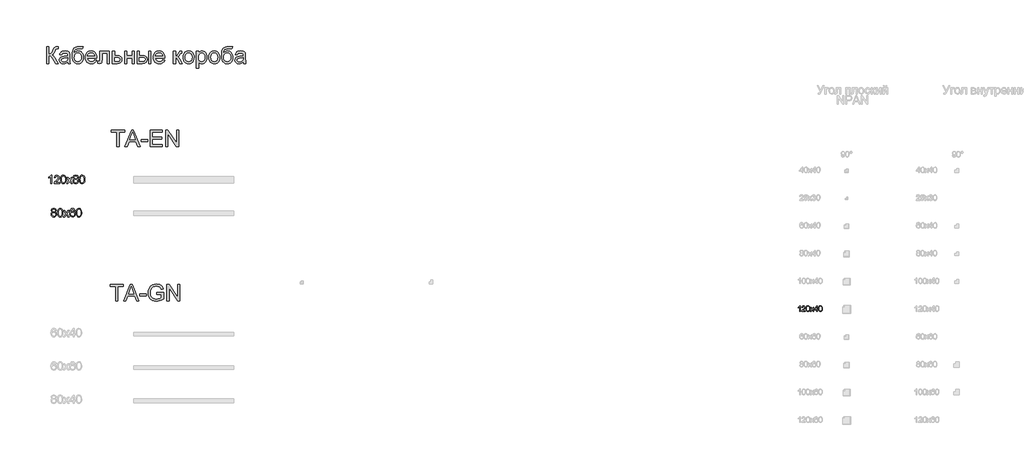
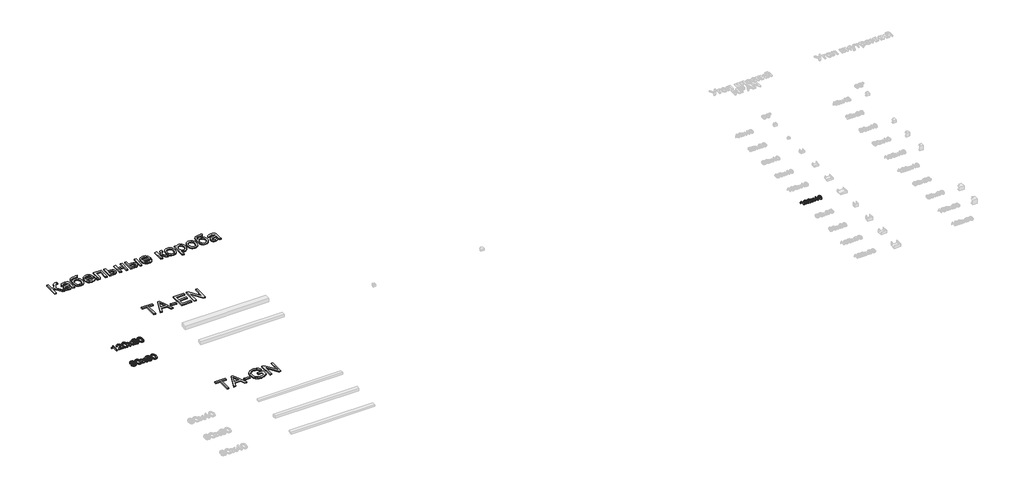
# One storey, part 19 of 28: 6 proxies.
"""IFC4 building model written with IfcOpenShell, lengths in millimetres."""

import ifcopenshell
import ifcopenshell.guid

model = None  # the IFC model being written
_history = None  # IfcOwnerHistory: only IFC2X3 demands one
_inside = {}  # id of a spatial element -> (the spatial element, [elements in it])
_under = {}  # id of a project, library or spatial element -> (it, [spatial elements below it])
_declared = {}  # id of a project -> (the project, [libraries it declares])
_typed = {}  # id of a type object -> (the type object, [elements of that type])
_made_of = {}  # id of a material, layer set ... -> (it, [elements and type objects made of it])


def new_model(schema):
    """Start an empty IFC model of exactly this schema.

    Asked for "IFC4X3", IfcOpenShell would pick the latest addendum, in which some entities
    have other attributes; the version numbers below select the first issue.
    IFC2X3 requires an IfcOwnerHistory on every rooted entity: one is made here for all.
    """
    global model, _history
    if schema == "IFC4X3":
        model = ifcopenshell.file(schema_version=(4, 3, 0, 0))
    else:
        model = ifcopenshell.file(schema=schema)
    _inside.clear()
    _under.clear()
    _declared.clear()
    _typed.clear()
    _made_of.clear()
    _history = None
    if model.schema == "IFC2X3":
        org = make("IfcOrganization", Name="unknown")
        user = make(
            "IfcPersonAndOrganization",
            ThePerson=make("IfcPerson", FamilyName="unknown"),
            TheOrganization=org,
        )
        app = make(
            "IfcApplication",
            ApplicationDeveloper=org,
            Version="unknown",
            ApplicationFullName="unknown",
            ApplicationIdentifier="unknown",
        )
        _history = make(
            "IfcOwnerHistory",
            OwningUser=user,
            OwningApplication=app,
            ChangeAction="ADDED",
            CreationDate=0,
        )
    return model


def make(cls, **values):
    """One entity of the class cls with the attributes given. An attribute that is None is left unset."""
    return model.create_entity(
        cls, **{name: value for name, value in values.items() if value is not None}
    )


def rooted(cls, **values):
    """An entity with a GlobalId (a new one), such as an element, a storey or a relation."""
    return make(cls, GlobalId=ifcopenshell.guid.new(), OwnerHistory=_history, **values)


def si_unit(unit_type, name, prefix=None):
    """IfcSIUnit, for example si_unit("LENGTHUNIT", "METRE", prefix="MILLI")."""
    return make("IfcSIUnit", UnitType=unit_type, Prefix=prefix, Name=name)


def assignment(units):
    """IfcUnitAssignment: the units of a project."""
    return None if units is None else make("IfcUnitAssignment", Units=units)


def point(xyz):
    """IfcCartesianPoint."""
    return None if xyz is None else make("IfcCartesianPoint", Coordinates=xyz)


def direction(xyz):
    """IfcDirection."""
    return None if xyz is None else make("IfcDirection", DirectionRatios=xyz)


def frame(location, z_axis=None, x_axis=None):
    """IfcAxis2Placement3D, a coordinate frame: its origin and axes. An axis left out is left unset."""
    return make(
        "IfcAxis2Placement3D",
        Location=point(location),
        Axis=direction(z_axis),
        RefDirection=direction(x_axis),
    )


def origin():
    """The frame at (0, 0, 0) with its axes left unset."""
    return frame((0.0, 0.0, 0.0))


def origin_with_axes():
    """The frame at (0, 0, 0) with the z axis (0, 0, 1) and the x axis (1, 0, 0) written out."""
    return frame((0.0, 0.0, 0.0), z_axis=(0.0, 0.0, 1.0), x_axis=(1.0, 0.0, 0.0))


def place(relative_to, where):
    """IfcLocalPlacement: puts the frame where relative to a parent placement (None: the world)."""
    return make(
        "IfcLocalPlacement", PlacementRelTo=relative_to, RelativePlacement=where
    )


def context(
    kind, dimensions, precision=None, world=None, true_north=None, identifier=None
):
    """IfcGeometricRepresentationContext, for example the 3D "Model" context."""
    return make(
        "IfcGeometricRepresentationContext",
        ContextIdentifier=identifier,
        ContextType=kind,
        CoordinateSpaceDimension=dimensions,
        Precision=precision,
        WorldCoordinateSystem=world,
        TrueNorth=true_north,
    )


def project(units=None, contexts=None):
    """IfcProject with its units and contexts."""
    return rooted(
        "IfcProject",
        Name="project",
        RepresentationContexts=contexts,
        UnitsInContext=assignment(units),
    )


def spatial(cls, under=None, at=None, **own):
    """A site, building, storey or space (cls), placed at a placement, below another one or the project."""
    s = rooted(cls, ObjectPlacement=at, **own)
    if under is not None:
        _under.setdefault(under.id(), (under, []))[1].append(s)
    return s


def polyline(points):
    """IfcPolyline through the points."""
    return make("IfcPolyline", Points=[point(p) for p in points])


def outline(outer, holes=None, kind="AREA"):
    """IfcArbitraryClosedProfileDef: a profile drawn as a closed curve; with holes, ...WithVoids."""
    if holes is None:
        return make("IfcArbitraryClosedProfileDef", ProfileType=kind, OuterCurve=outer)
    return make(
        "IfcArbitraryProfileDefWithVoids",
        ProfileType=kind,
        OuterCurve=outer,
        InnerCurves=holes,
    )


def extrude(swept, where, along, depth):
    """IfcExtrudedAreaSolid: the profile swept, set in the frame where, extruded along a direction by depth."""
    return make(
        "IfcExtrudedAreaSolid",
        SweptArea=swept,
        Position=where,
        ExtrudedDirection=direction(along),
        Depth=depth,
    )


def shape(context_of_items, identifier, shape_type, items):
    """IfcShapeRepresentation: the items that make up one representation, for example the "Body"."""
    return make(
        "IfcShapeRepresentation",
        ContextOfItems=context_of_items,
        RepresentationIdentifier=identifier,
        RepresentationType=shape_type,
        Items=items,
    )


def made_of(thing, what):
    """Note that an element or type object is made of a material, layer set ...; save() writes the relation."""
    if what is not None:
        _made_of.setdefault(what.id(), (what, []))[1].append(thing)
    return thing


def element(
    cls,
    number,
    at=None,
    inside=None,
    cuts=None,
    type_object=None,
    material=None,
    context=None,
    identifier="Body",
    shape_type=None,
    held_by="IfcProductDefinitionShape",
    body=None,
    shapes=None,
    **own,
):
    """One element of the class cls, such as IfcWall. Its Tag is "e" and its number.

    at: its placement. inside: the storey or other place that contains it. cuts: it is an
    opening in that element (IfcRelVoidsElement). A single representation is given by context,
    identifier, shape_type and body (its items); several are given by shapes. held_by: the class
    of the entity that holds the representations. save() writes the other relations.
    """
    e = rooted(cls, Tag="e%d" % number, ObjectPlacement=at, **own)
    if body is not None:
        shapes = [shape(context, identifier, shape_type, body)]
    if shapes is not None:
        e.Representation = make(held_by, Representations=shapes)
    if inside is not None:
        _inside.setdefault(inside.id(), (inside, []))[1].append(e)
    if cuts is not None:
        rooted(
            "IfcRelVoidsElement", RelatingBuildingElement=cuts, RelatedOpeningElement=e
        )
    if type_object is not None:
        _typed.setdefault(type_object.id(), (type_object, []))[1].append(e)
    return made_of(e, material)


def aggregate(whole, parts):
    """IfcRelAggregates: a whole, such as a stair, and the parts it consists of."""
    return rooted("IfcRelAggregates", RelatingObject=whole, RelatedObjects=parts)


def save(model, path):
    """Write the relations noted so far, then the file.

    IfcRelAggregates (storeys below a building ...), IfcRelContainedInSpatialStructure (elements
    in a storey), IfcRelDefinesByType, IfcRelAssociatesMaterial and IfcRelDeclares: one each for
    every whole, place, type object, material and project.
    """
    for whole, parts in _under.values():
        aggregate(whole, parts)
    for where, things in _inside.values():
        rooted(
            "IfcRelContainedInSpatialStructure",
            RelatedElements=things,
            RelatingStructure=where,
        )
    for kind, things in _typed.values():
        rooted("IfcRelDefinesByType", RelatedObjects=things, RelatingType=kind)
    for what, things in _made_of.values():
        rooted("IfcRelAssociatesMaterial", RelatedObjects=things, RelatingMaterial=what)
    for by, libraries in _declared.values():
        rooted("IfcRelDeclares", RelatingContext=by, RelatedDefinitions=libraries)
    model.write(path)


model = new_model("IFC4")

# Units and contexts
model_context = context("Model", 3, world=origin())
ifc_project = project(units=[si_unit("LENGTHUNIT", "METRE", prefix="MILLI")], contexts=[model_context])

# Site, building, storey
site = spatial("IfcSite", under=ifc_project)
building = spatial("IfcBuilding", under=site)
storey = spatial("IfcBuildingStorey", under=building, Name="Этаж 01", Elevation=0.0)

# Proxies
placement = place(None, origin())
element("IfcBuildingElementProxy", 1, Name="300 мм Arial", ObjectType="300 мм Arial", at=placement, inside=storey, context=model_context, shape_type="SweptSolid", body=[
    extrude(outline(polyline([(-596.1252224, 5303.8877407), (-558.4541061, 5303.8877407), (-558.4541061, 5172.0388337), (-532.9506867, 5174.5312342), (-516.3316176, 5182.0084357), (-502.8947277, 5199.6023922), (-486.9378462, 5232.4450573), (-466.1525135, 5274.5675457), (-456.1277291, 5285.9810846), (-442.6080658, 5295.4264549), (-426.5592137, 5301.7724193), (-408.9468632, 5303.8877407), (-384.2251931, 5303.4462824), (-384.2251931, 5265.775166), (-392.5393262, 5265.9958952), (-400.8534593, 5266.2166244), (-418.1071249, 5263.9541502), (-430.2840189, 5257.1667274), (-440.7686558, 5242.9113), (-452.6512442, 5218.3919651), (-467.2285683, 5187.8577595), (-479.3226889, 5171.1559169), (-505.331946, 5155.5577203), (-490.7408263, 5149.3497116), (-476.2508742, 5138.5247839), (-447.5744727, 5103.0241714), (-384.2251931, 5002.5188103), (-427.9295742, 5002.5188103), (-481.4931927, 5087.4259748), (-502.1773578, 5114.6584395), (-519.2010972, 5131.7557552), (-536.6111126, 5140.7780611), (-558.4541061, 5143.7854964), (-558.4541061, 5002.5188103), (-596.1252224, 5002.5188103), (-596.1252224, 5303.8877407)])), origin_with_axes(), (0.0, 0.0, 1.0), 20.0),
    extrude(outline(polyline([(-214.7051698, 5030.7721475), (-232.7037964, 5015.3394978), (-251.2358519, 5005.2411371), (-270.7244006, 4999.6677248), (-291.5925068, 4997.8099208), (-323.0740085, 5002.279687), (-346.2965594, 5015.6889857), (-360.6163661, 5036.0512542), (-365.389635, 5061.3799295), (-363.5870132, 5076.9965202), (-358.1791479, 5091.1783711), (-349.8374236, 5103.318477), (-339.2332251, 5112.8098325), (-312.8560861, 5125.1706675), (-280.2617413, 5130.8360502), (-241.7444964, 5136.7957385), (-214.925899, 5143.7854964), (-214.7051698, 5152.1732059), (-217.2987378, 5168.9854131), (-225.079442, 5179.9850848), (-242.4802604, 5188.1520651), (-266.7236839, 5190.8743918), (-289.1644856, 5189.062573), (-304.8362586, 5183.6271165), (-315.5232305, 5173.574741), (-323.0096291, 5157.9121651), (-360.6807455, 5162.6210546), (-354.141643, 5183.2224463), (-344.3835731, 5199.4092541), (-330.4960277, 5211.7884833), (-311.5684991, 5220.967139), (-288.4195245, 5226.6509159), (-261.8676415, 5228.5455081), (-236.4010104, 5226.8716451), (-216.2134859, 5221.8500558), (-200.9923684, 5214.2992779), (-190.4249581, 5205.0378486), (-183.4168061, 5193.5875215), (-178.8734634, 5179.47005), (-177.0340535, 5146.5078232), (-177.0340535, 5099.639657), (-175.1210671, 5034.1934501), (-167.6162744, 5002.5188103), (-205.2873907, 5002.5188103), (-214.7051698, 5030.7721475)]), holes=[polyline([(-214.7051698, 5106.1143801), (-275.4792754, 5094.5628855), (-307.8896791, 5088.4560444), (-322.5681708, 5078.5232305), (-327.7185187, 5064.0286799), (-324.9134185, 5052.8266731), (-316.4981178, 5043.6480174), (-302.6565578, 5037.5227821), (-283.5726793, 5035.4810371), (-263.3391695, 5037.7343143), (-245.4601046, 5044.4941459), (-230.965554, 5054.454551), (-220.8855873, 5066.3095483), (-216.415821, 5078.5232305), (-214.925899, 5095.4458023), (-214.7051698, 5106.1143801)])]), origin_with_axes(), (0.0, 0.0, 1.0), 20.0),
    extrude(outline(polyline([(30.1570862, 5308.5966303), (63.119313, 5308.5966303), (59.5508576, 5290.6899742), (53.4072283, 5279.2028589), (44.8907601, 5272.406239), (34.2037882, 5268.5710692), (-11.928614, 5266.2166244), (-50.2343268, 5264.0461207), (-74.063883, 5257.5346094), (-88.3193103, 5246.2406321), (-97.9026363, 5229.7227305), (-103.5404279, 5207.8521459), (-105.959252, 5180.5001196), (-90.8117108, 5201.5429697), (-73.328119, 5216.5525551), (-53.4900824, 5225.5472699), (-31.279207, 5228.5455081), (-10.7559902, 5226.6394195), (7.9186196, 5220.9211538), (24.7446224, 5211.3907108), (39.7220181, 5198.0480907), (52.0184738, 5181.4543135), (60.8016564, 5162.1703992), (66.071566, 5140.1963477), (67.8282025, 5115.5321592), (64.3425206, 5079.5716942), (53.8854749, 5050.7113517), (38.6459633, 5028.279747), (20.8128835, 5011.6054956), (-1.775071, 5001.2588145), (-31.279207, 4997.8099208), (-65.2807004, 5002.2520959), (-90.7657256, 5015.5786211), (-109.5185103, 5035.830525), (-123.3232822, 5061.0488357), (-131.8213563, 5099.0234547), (-134.6540476, 5157.5442831), (-132.8675207, 5197.2088599), (-127.5079399, 5229.8238981), (-118.5753052, 5255.3893975), (-106.0696166, 5273.9053581), (-89.8575169, 5287.0226505), (-69.8056489, 5296.3921451), (-45.9140126, 5302.0138418), (-18.1826079, 5303.8877407), (23.7559395, 5304.7338693), (30.1570862, 5308.5966303)]), holes=[polyline([(30.1570862, 5116.7093816), (26.0735961, 5146.3514734), (13.8231256, 5170.0890591), (-5.8585611, 5185.6780586), (-32.2357002, 5190.8743918), (-59.7348793, 5185.383753), (-70.8219229, 5178.5204546), (-80.1339359, 5168.9118367), (-92.7706825, 5143.2612646), (-96.9829313, 5110.2346585), (-92.3292241, 5078.2197279), (-78.3681024, 5054.7212654), (-57.5827696, 5040.2910942), (-32.4564294, 5035.4810371), (-7.2013304, 5041.0452522), (12.7930561, 5057.7378978), (25.8160787, 5083.6091991), (30.1570862, 5116.7093816)])]), origin_with_axes(), (0.0, 0.0, 1.0), 20.0),
    extrude(outline(polyline([(269.8689943, 5068.4432638), (306.8043466, 5063.7343743), (293.4962154, 5035.9041014), (272.2602273, 5015.1003745), (243.5746287, 5002.1325342), (207.9176663, 4997.8099208), (184.543364, 4999.6746226), (163.7166446, 5005.2687282), (145.4375079, 5014.5922375), (129.7059541, 5027.6451506), (117.055412, 5044.0641839), (108.0193105, 5063.4860539), (102.5976496, 5085.9107608), (100.7904293, 5111.3383045), (102.6160437, 5137.6280716), (108.0928869, 5160.8000387), (117.2209589, 5180.854206), (130.0002597, 5197.7905733), (145.6904268, 5211.2458573), (163.5510977, 5220.8567744), (183.5822723, 5226.6233247), (205.7839507, 5228.5455081), (227.2705585, 5226.6279232), (246.7016256, 5220.8751685), (264.0771521, 5211.287244), (279.397138, 5197.8641497), (291.9028265, 5180.9645706), (300.8354612, 5160.9471915), (306.195042, 5137.8120125), (307.981569, 5111.5590337), (307.7608398, 5101.4054906), (138.4615456, 5101.4054906), (144.982254, 5073.2073357), (160.1297951, 5052.4771852), (181.9911827, 5039.7300741), (208.6534303, 5035.4810371), (228.702999, 5037.4492057), (245.5887826, 5043.3537118), (259.310781, 5053.5624371), (269.8689943, 5068.4432638)]), holes=[polyline([(138.4615456, 5139.0766069), (270.3104527, 5139.0766069), (265.215287, 5158.9790228), (255.2272909, 5173.2160561), (233.2647358, 5186.4598079), (205.6367979, 5190.8743918), (180.2437432, 5187.3519217), (159.2468783, 5176.7845114), (144.6511602, 5160.3125951), (138.4615456, 5139.0766069)])]), origin_with_axes(), (0.0, 0.0, 1.0), 20.0),
    extrude(outline(polyline([(364.4882434, 5223.8366186), (534.0082668, 5223.8366186), (534.0082668, 5002.7395395), (496.3371505, 5002.7395395), (496.3371505, 5186.1655023), (402.1593597, 5186.1655023), (402.1593597, 5080.5833697), (399.620974, 5031.8757935), (394.8660992, 5020.8485307), (385.6782464, 5011.31119), (371.7355187, 5004.7169052), (352.7160196, 5002.5188103), (322.1082376, 5004.4317967), (322.1082376, 5040.1899266), (338.957233, 5040.1899266), (355.9901694, 5042.5075832), (362.7959863, 5049.8652231), (364.4882434, 5082.7170852), (364.4882434, 5223.8366186)])), origin_with_axes(), (0.0, 0.0, 1.0), 20.0),
    extrude(outline(polyline([(590.5149413, 5223.8366186), (628.1860576, 5223.8366186), (628.1860576, 5143.7854964), (671.596133, 5143.7854964), (709.2304611, 5139.0674099), (724.3780023, 5133.1698016), (737.0791282, 5124.9131501), (747.1223066, 5114.5825638), (754.2960055, 5102.4631513), (760.0349647, 5072.8578478), (755.1513312, 5045.9012946), (740.5004307, 5023.1569902), (729.2685335, 5014.1277865), (715.107376, 5007.6783553), (677.9972797, 5002.5188103), (590.5149413, 5002.5188103), (590.5149413, 5223.8366186)]), holes=[polyline([(628.1860576, 5040.1899266), (663.3555763, 5040.1899266), (690.6432233, 5042.1672923), (708.7890027, 5048.0993895), (718.9701369, 5058.2253414), (722.3638483, 5072.7842714), (719.8530537, 5085.0899241), (712.3206699, 5095.9608371), (696.1798473, 5103.5759944), (667.8437367, 5106.1143801), (628.1860576, 5106.1143801), (628.1860576, 5040.1899266)])]), origin_with_axes(), (0.0, 0.0, 1.0), 20.0),
    extrude(outline(polyline([(807.12386, 5223.8366186), (844.7949763, 5223.8366186), (844.7949763, 5139.0766069), (943.6816566, 5139.0766069), (943.6816566, 5223.8366186), (981.352773, 5223.8366186), (981.352773, 5002.5188103), (943.6816566, 5002.5188103), (943.6816566, 5101.4054906), (844.7949763, 5101.4054906), (844.7949763, 5002.5188103), (807.12386, 5002.5188103), (807.12386, 5223.8366186)])), origin_with_axes(), (0.0, 0.0, 1.0), 20.0),
    extrude(outline(polyline([(1245.0505871, 5223.8366186), (1282.7217034, 5223.8366186), (1282.7217034, 5002.5188103), (1245.0505871, 5002.5188103), (1245.0505871, 5223.8366186)])), origin_with_axes(), (0.0, 0.0, 1.0), 20.0),
    extrude(outline(polyline([(1037.8594474, 5223.8366186), (1075.5305637, 5223.8366186), (1075.5305637, 5143.7854964), (1122.1044243, 5143.7854964), (1162.3599116, 5139.0674099), (1178.5766098, 5133.1698016), (1192.1859444, 5124.9131501), (1202.9533905, 5114.5825638), (1210.6444235, 5102.4631513), (1215.2590433, 5088.5549127), (1216.7972499, 5072.8578478), (1211.6377049, 5045.9012946), (1196.1590699, 5023.1569902), (1184.2971749, 5014.1277865), (1169.3496695, 5007.6783553), (1130.1978282, 5002.5188103), (1037.8594474, 5002.5188103), (1037.8594474, 5223.8366186)]), holes=[polyline([(1075.5305637, 5040.1899266), (1114.2317496, 5040.1899266), (1144.2325263, 5042.1672923), (1164.1901246, 5048.0993895), (1175.3921313, 5058.2253414), (1179.1261336, 5072.7842714), (1176.3578215, 5085.0899241), (1168.0528855, 5095.9608371), (1150.2933822, 5103.5759944), (1119.1613683, 5106.1143801), (1075.5305637, 5106.1143801), (1075.5305637, 5040.1899266)])]), origin_with_axes(), (0.0, 0.0, 1.0), 20.0),
    extrude(outline(polyline([(1494.1802742, 5068.4432638), (1531.1156265, 5063.7343743), (1517.8074954, 5035.9041014), (1496.5715072, 5015.1003745), (1467.8859086, 5002.1325342), (1432.2289462, 4997.8099208), (1408.854644, 4999.6746226), (1388.0279245, 5005.2687282), (1369.7487879, 5014.5922375), (1354.0172341, 5027.6451506), (1341.366692, 5044.0641839), (1332.3305905, 5063.4860539), (1326.9089295, 5085.9107608), (1325.1017092, 5111.3383045), (1326.9273236, 5137.6280716), (1332.4041669, 5160.8000387), (1341.5322389, 5180.854206), (1354.3115397, 5197.7905733), (1370.0017068, 5211.2458573), (1387.8623776, 5220.8567744), (1407.8935523, 5226.6233247), (1430.0952307, 5228.5455081), (1451.5818385, 5226.6279232), (1471.0129056, 5220.8751685), (1488.3884321, 5211.287244), (1503.7084179, 5197.8641497), (1516.2141065, 5180.9645706), (1525.1467412, 5160.9471915), (1530.506322, 5137.8120125), (1532.2928489, 5111.5590337), (1532.0721197, 5101.4054906), (1362.7728256, 5101.4054906), (1369.2935339, 5073.2073357), (1384.4410751, 5052.4771852), (1406.3024626, 5039.7300741), (1432.9647102, 5035.4810371), (1453.014279, 5037.4492057), (1469.9000625, 5043.3537118), (1483.622061, 5053.5624371), (1494.1802742, 5068.4432638)]), holes=[polyline([(1362.7728256, 5139.0766069), (1494.6217326, 5139.0766069), (1489.526567, 5158.9790228), (1479.5385708, 5173.2160561), (1457.5760157, 5186.4598079), (1429.9480779, 5190.8743918), (1404.5550232, 5187.3519217), (1383.5581583, 5176.7845114), (1368.9624401, 5160.3125951), (1362.7728256, 5139.0766069)])]), origin_with_axes(), (0.0, 0.0, 1.0), 20.0),
    extrude(outline(polyline([(1687.6862037, 5223.8366186), (1725.35732, 5223.8366186), (1725.35732, 5129.6588278), (1740.6796051, 5131.351085), (1750.5940249, 5136.4278565), (1759.3680105, 5149.6716084), (1771.268993, 5175.8648064), (1788.4490822, 5209.893891), (1803.6058204, 5220.967139), (1831.1601818, 5223.8366186), (1838.3706689, 5223.8366186), (1838.3706689, 5185.9447731), (1828.2171259, 5186.1655023), (1809.8230261, 5182.1923767), (1796.8735799, 5157.3971303), (1781.6800535, 5130.5785328), (1760.3796859, 5117.4451456), (1772.3174567, 5112.1430463), (1784.1448628, 5102.7850481), (1807.4685813, 5071.9013546), (1847.788448, 5002.5188103), (1804.9669838, 5002.5188103), (1765.4564575, 5070.4298266), (1745.5908297, 5099.1614104), (1736.3018094, 5104.3761377), (1725.35732, 5106.1143801), (1725.35732, 5002.5188103), (1687.6862037, 5002.5188103), (1687.6862037, 5223.8366186)])), origin_with_axes(), (0.0, 0.0, 1.0), 20.0),
    extrude(outline(polyline([(1861.9151166, 5113.1777144), (1863.9522632, 5141.8403204), (1870.0637028, 5166.5389978), (1880.2494355, 5187.2737468), (1894.5094614, 5204.0445673), (1908.8660562, 5214.7637289), (1924.7125732, 5222.4202729), (1942.0490122, 5227.0141993), (1960.8753733, 5228.5455081), (1981.6584068, 5226.6808063), (2000.4502789, 5221.0867007), (2017.2509898, 5211.7631914), (2032.0605394, 5198.7102783), (2044.1477622, 5182.36942), (2052.7814928, 5163.1820746), (2057.9617311, 5141.1482424), (2059.6884772, 5116.2679232), (2056.6350567, 5078.2105308), (2047.474795, 5049.2398237), (2032.4744066, 5027.543983), (2011.900606, 5011.31119), (1987.4640445, 5001.1852381), (1960.8753733, 4997.8099208), (1939.7888372, 4999.6677248), (1920.8222211, 5005.2411371), (1903.975525, 5014.5301574), (1889.2487489, 5027.534786), (1877.2902847, 5044.0342935), (1868.7485247, 5063.8079507), (1863.6234686, 5086.8557577), (1861.9151166, 5113.1777144)]), holes=[polyline([(1899.5862329, 5113.2512908), (1903.9456346, 5079.1578269), (1917.0238395, 5054.8684182), (1936.7055262, 5040.3278824), (1960.8753733, 5035.4810371), (1984.9348558, 5040.3554735), (2004.5797543, 5054.9787828), (2017.6579593, 5079.5900883), (2022.0173609, 5114.4285132), (2017.6303681, 5147.5286957), (2004.4693897, 5171.4870107), (1984.7969, 5186.0275465), (1960.8753733, 5190.8743918), (1936.7055262, 5186.0459406), (1917.0238395, 5171.5605871), (1903.9456346, 5147.3263606), (1899.5862329, 5113.2512908)])]), origin_with_axes(), (0.0, 0.0, 1.0), 20.0),
    extrude(outline(polyline([(2102.0684831, 4917.7587986), (2102.0684831, 5223.8366186), (2139.7395994, 5223.8366186), (2139.7395994, 5186.9012663), (2152.026858, 5205.1206221), (2165.7856446, 5218.1344477), (2181.8252996, 5225.942743), (2200.9551634, 5228.5455081), (2226.4309915, 5224.9034764), (2248.7062463, 5213.9773811), (2266.8428287, 5196.42941), (2279.9026395, 5172.9217505), (2287.7937083, 5145.1650539), (2290.4240646, 5114.8699716), (2287.4534175, 5082.6527059), (2278.5414761, 5053.8383486), (2263.9733491, 5029.8892307), (2244.034145, 5012.2676832), (2220.8115941, 5001.4243614), (2196.3934266, 4997.8099208), (2179.0753817, 5000.2287449), (2163.6151409, 5007.4852172), (2150.3805861, 5018.4389036), (2139.7395994, 5031.9493699), (2139.7395994, 4917.7587986), (2102.0684831, 4917.7587986)]), holes=[polyline([(2139.7395994, 5111.4118809), (2143.8138925, 5077.6403137), (2156.0367718, 5054.0222896), (2174.0721866, 5040.1163502), (2195.5840862, 5035.4810371), (2217.4454738, 5040.2818971), (2235.9407411, 5054.6844772), (2248.5498965, 5079.167024), (2252.7529483, 5114.207784), (2248.651064, 5147.7954102), (2236.3454113, 5171.7445281), (2218.3375876, 5186.0919259), (2197.1291906, 5190.8743918), (2175.8380201, 5185.7884232), (2157.1404177, 5170.5305175), (2144.089804, 5145.5789212), (2139.7395994, 5111.4118809)])]), origin_with_axes(), (0.0, 0.0, 1.0), 20.0),
    extrude(outline(polyline([(2323.3862914, 5113.1777144), (2325.4234379, 5141.8403204), (2331.5348776, 5166.5389978), (2341.7206103, 5187.2737468), (2355.9806361, 5204.0445673), (2370.337231, 5214.7637289), (2386.1837479, 5222.4202729), (2403.520187, 5227.0141993), (2422.3465481, 5228.5455081), (2443.1295815, 5226.6808063), (2461.9214537, 5221.0867007), (2478.7221646, 5211.7631914), (2493.5317141, 5198.7102783), (2505.6189369, 5182.36942), (2514.2526675, 5163.1820746), (2519.4329059, 5141.1482424), (2521.159652, 5116.2679232), (2518.1062314, 5078.2105308), (2508.9459697, 5049.2398237), (2493.9455814, 5027.543983), (2473.3717808, 5011.31119), (2448.9352193, 5001.1852381), (2422.3465481, 4997.8099208), (2401.260012, 4999.6677248), (2382.2933958, 5005.2411371), (2365.4466997, 5014.5301574), (2350.7199236, 5027.534786), (2338.7614595, 5044.0342935), (2330.2196994, 5063.8079507), (2325.0946434, 5086.8557577), (2323.3862914, 5113.1777144)]), holes=[polyline([(2361.0574077, 5113.2512908), (2365.4168093, 5079.1578269), (2378.4950142, 5054.8684182), (2398.176701, 5040.3278824), (2422.3465481, 5035.4810371), (2446.4060305, 5040.3554735), (2466.0509291, 5054.9787828), (2479.129134, 5079.5900883), (2483.4885357, 5114.4285132), (2479.1015429, 5147.5286957), (2465.9405645, 5171.4870107), (2446.2680748, 5186.0275465), (2422.3465481, 5190.8743918), (2398.176701, 5186.0459406), (2378.4950142, 5171.5605871), (2365.4168093, 5147.3263606), (2361.0574077, 5113.2512908)])]), origin_with_axes(), (0.0, 0.0, 1.0), 20.0),
    extrude(outline(polyline([(2718.9330126, 5308.5966303), (2751.8952393, 5308.5966303), (2748.326784, 5290.6899742), (2742.1831547, 5279.2028589), (2733.6666865, 5272.406239), (2722.9797145, 5268.5710692), (2676.8473123, 5266.2166244), (2638.5415996, 5264.0461207), (2614.7120433, 5257.5346094), (2600.456616, 5246.2406321), (2590.8732901, 5229.7227305), (2585.2354985, 5207.8521459), (2582.8166744, 5180.5001196), (2597.9642155, 5201.5429697), (2615.4478073, 5216.5525551), (2635.2858439, 5225.5472699), (2657.4967194, 5228.5455081), (2678.0199362, 5226.6394195), (2696.694546, 5220.9211538), (2713.5205487, 5211.3907108), (2728.4979444, 5198.0480907), (2740.7944001, 5181.4543135), (2749.5775828, 5162.1703992), (2754.8474924, 5140.1963477), (2756.6041289, 5115.5321592), (2753.118447, 5079.5716942), (2742.6614013, 5050.7113517), (2727.4218896, 5028.279747), (2709.5888099, 5011.6054956), (2687.0008554, 5001.2588145), (2657.4967194, 4997.8099208), (2623.495226, 5002.2520959), (2598.0102008, 5015.5786211), (2579.2574161, 5035.830525), (2565.4526442, 5061.0488357), (2556.9545701, 5099.0234547), (2554.1218787, 5157.5442831), (2555.9084057, 5197.2088599), (2561.2679865, 5229.8238981), (2570.2006212, 5255.3893975), (2582.7063098, 5273.9053581), (2598.9184094, 5287.0226505), (2618.9702774, 5296.3921451), (2642.8619138, 5302.0138418), (2670.5933184, 5303.8877407), (2712.5318659, 5304.7338693), (2718.9330126, 5308.5966303)]), holes=[polyline([(2718.9330126, 5116.7093816), (2714.8495224, 5146.3514734), (2702.599052, 5170.0890591), (2682.9173652, 5185.6780586), (2656.5402262, 5190.8743918), (2629.0410471, 5185.383753), (2617.9540034, 5178.5204546), (2608.6419904, 5168.9118367), (2596.0052439, 5143.2612646), (2591.792995, 5110.2346585), (2596.4467023, 5078.2197279), (2610.407824, 5054.7212654), (2631.1931567, 5040.2910942), (2656.319497, 5035.4810371), (2681.574596, 5041.0452522), (2701.5689824, 5057.7378978), (2714.592005, 5083.6091991), (2718.9330126, 5116.7093816)])]), origin_with_axes(), (0.0, 0.0, 1.0), 20.0),
    extrude(outline(polyline([(2944.9597104, 5030.7721475), (2926.9610838, 5015.3394978), (2908.4290283, 5005.2411371), (2888.9404796, 4999.6677248), (2868.0723734, 4997.8099208), (2836.5908717, 5002.279687), (2813.3683207, 5015.6889857), (2799.0485141, 5036.0512542), (2794.2752452, 5061.3799295), (2796.077867, 5076.9965202), (2801.4857323, 5091.1783711), (2809.8274565, 5103.318477), (2820.431655, 5112.8098325), (2846.8087941, 5125.1706675), (2879.4031389, 5130.8360502), (2917.9203838, 5136.7957385), (2944.7389812, 5143.7854964), (2944.9597104, 5152.1732059), (2942.3661423, 5168.9854131), (2934.5854381, 5179.9850848), (2917.1846198, 5188.1520651), (2892.9411963, 5190.8743918), (2870.5003946, 5189.062573), (2854.8286216, 5183.6271165), (2844.1416496, 5173.574741), (2836.655251, 5157.9121651), (2798.9841347, 5162.6210546), (2805.5232372, 5183.2224463), (2815.2813071, 5199.4092541), (2829.1688524, 5211.7884833), (2848.0963811, 5220.967139), (2871.2453556, 5226.6509159), (2897.7972386, 5228.5455081), (2923.2638697, 5226.8716451), (2943.4513942, 5221.8500558), (2958.6725118, 5214.2992779), (2969.2399221, 5205.0378486), (2976.2480741, 5193.5875215), (2980.7914167, 5179.47005), (2982.6308267, 5146.5078232), (2982.6308267, 5099.639657), (2984.5438131, 5034.1934501), (2992.0486058, 5002.5188103), (2954.3774895, 5002.5188103), (2944.9597104, 5030.7721475)]), holes=[polyline([(2944.9597104, 5106.1143801), (2884.1856048, 5094.5628855), (2851.775201, 5088.4560444), (2837.0967094, 5078.5232305), (2831.9463615, 5064.0286799), (2834.7514617, 5052.8266731), (2843.1667623, 5043.6480174), (2857.0083224, 5037.5227821), (2876.0922009, 5035.4810371), (2896.3257106, 5037.7343143), (2914.2047756, 5044.4941459), (2928.6993262, 5054.454551), (2938.7792929, 5066.3095483), (2943.2490591, 5078.5232305), (2944.7389812, 5095.4458023), (2944.9597104, 5106.1143801)])]), origin_with_axes(), (0.0, 0.0, 1.0), 20.0),
])
element("IfcBuildingElementProxy", 2, Name="150 мм Arial", ObjectType="150 мм Arial", at=placement, inside=storey, context=model_context, shape_type="SweptSolid", body=[
    extrude(outline(polyline([(-501.8873163, 2839.387365), (-520.7228745, 2839.387365), (-520.7228745, 2956.8152978), (-538.5651512, 2944.1049749), (-558.3939908, 2934.5952253), (-558.3939908, 2952.4007139), (-530.784447, 2970.0222615), (-514.0274221, 2990.0718302), (-501.8873163, 2990.0718302), (-501.8873163, 2839.387365)])), origin_with_axes(), (0.0, 0.0, 1.0), 20.0),
    extrude(outline(polyline([(-360.6206302, 2858.2229231), (-360.6206302, 2839.387365), (-459.5073105, 2839.387365), (-457.4839595, 2852.3735994), (-446.0428294, 2872.3679858), (-422.4615935, 2894.2017822), (-389.9408252, 2925.5821164), (-383.8431811, 2936.3978471), (-381.8106331, 2946.9192722), (-383.728218, 2956.3508468), (-389.4809727, 2964.1913318), (-398.3239361, 2969.475037), (-409.5121473, 2971.236272), (-421.2613785, 2969.5164237), (-430.3894505, 2964.3568787), (-436.280161, 2956.1623073), (-438.3173075, 2945.3373796), (-457.1528657, 2947.6918243), (-452.5865304, 2965.9111802), (-442.7134974, 2979.2193113), (-428.0488013, 2987.3587005), (-409.1074771, 2990.0718302), (-390.0281971, 2987.0551978), (-375.3910923, 2978.0053007), (-366.0790793, 2964.4856374), (-362.9750749, 2948.0597063), (-366.3228011, 2930.1990355), (-377.4512314, 2911.7313593), (-404.4353758, 2885.9244374), (-426.1036253, 2867.8062491), (-434.6016994, 2858.2229231), (-360.6206302, 2858.2229231)])), origin_with_axes(), (0.0, 0.0, 1.0), 20.0),
    extrude(outline(polyline([(-341.785072, 2913.515587), (-340.400916, 2937.6348503), (-336.248448, 2956.8704801), (-329.3690547, 2971.5167821), (-319.8041228, 2981.8680617), (-307.4846745, 2988.0208881), (-292.3417319, 2990.0718302), (-270.3423885, 2985.2157879), (-255.1488621, 2971.2178779), (-246.3196943, 2948.924229), (-242.8983917, 2913.515587), (-244.2687521, 2889.5342794), (-248.3798334, 2870.3446349), (-255.21784, 2855.6845374), (-264.7689763, 2845.291871), (-277.1160158, 2839.0976579), (-292.3417319, 2837.0329202), (-311.913054, 2840.6197697), (-326.7754866, 2851.380318), (-338.0326757, 2876.8653432), (-341.785072, 2913.515587)]), holes=[polyline([(-322.9495139, 2913.5523752), (-320.7422219, 2883.924079), (-314.120346, 2866.7761795), (-304.2611085, 2858.5954036), (-292.3417319, 2855.8684784), (-280.4223552, 2858.6046007), (-270.5631177, 2866.8129677), (-263.9412418, 2883.9700643), (-261.7339499, 2913.5523752), (-263.8676654, 2942.5138853), (-270.2688121, 2959.795142), (-280.1096555, 2968.3759895), (-292.5624611, 2971.236272), (-304.353079, 2968.7162804), (-313.8260404, 2961.1563054), (-320.6686455, 2942.7989938), (-322.9495139, 2913.5523752)])]), origin_with_axes(), (0.0, 0.0, 1.0), 20.0),
    extrude(outline(polyline([(-233.4806126, 2839.387365), (-193.2343224, 2895.0111226), (-231.1261679, 2950.0462691), (-208.464637, 2950.0462691), (-190.1809018, 2923.5587655), (-181.6460395, 2911.0507776), (-174.2516114, 2921.2778971), (-153.4294905, 2950.0462691), (-130.7679596, 2950.0462691), (-170.5727915, 2895.0111226), (-132.2394876, 2839.387365), (-154.9010185, 2839.387365), (-177.9672196, 2872.8278383), (-182.1978625, 2878.9346794), (-210.8190817, 2839.387365), (-233.4806126, 2839.387365)])), origin_with_axes(), (0.0, 0.0, 1.0), 20.0),
    extrude(outline(polyline([(-93.0232669, 2922.3815431), (-110.1849619, 2934.0801905), (-115.7583742, 2952.2903493), (-112.7233477, 2967.0148261), (-103.6182683, 2979.1825231), (-89.4640086, 2987.3495034), (-71.281441, 2990.0718302), (-52.9885087, 2987.2851241), (-38.650308, 2978.9250057), (-29.3796817, 2966.5641707), (-26.2894729, 2951.7753145), (-31.7893088, 2934.0250082), (-48.4727573, 2922.3815431), (-36.8798759, 2916.4080592), (-28.4415826, 2907.611081), (-23.2958332, 2896.4136727), (-21.5805834, 2883.2388988), (-24.9834919, 2865.2310751), (-35.1922172, 2850.3502484), (-50.9559607, 2840.3622523), (-71.0239236, 2837.0329202), (-91.0918864, 2840.3760478), (-106.8556299, 2850.4054307), (-117.0643553, 2865.4288117), (-120.4672637, 2883.7539336), (-118.683036, 2897.4391438), (-113.330353, 2908.6963329), (-104.6851261, 2917.1392246), (-93.0232669, 2922.3815431)]), holes=[polyline([(-101.6317056, 2884.4161212), (-98.4863145, 2870.2342703), (-87.3578841, 2859.6208747), (-70.8767708, 2855.8684784), (-58.0560832, 2857.8412456), (-48.4359691, 2863.7595471), (-42.4210984, 2872.7220723), (-40.4161416, 2883.82751), (-42.4854778, 2895.1214872), (-48.6934864, 2904.2817489), (-58.5343298, 2910.3518018), (-71.5021701, 2912.3751528), (-84.1435152, 2910.379393), (-93.6670604, 2904.3921135), (-99.6405443, 2895.4065958), (-101.6317056, 2884.4161212)]), polyline([(-96.922816, 2951.7385263), (-95.2535515, 2943.5163637), (-90.2457578, 2936.9496701), (-82.0465878, 2932.6454507), (-70.8031944, 2931.210711), (-59.8219168, 2932.6362537), (-51.746907, 2936.9128819), (-46.7805001, 2943.2588463), (-45.1250311, 2950.8923977), (-46.8356824, 2958.8156562), (-51.9676362, 2965.3685542), (-60.1530106, 2969.7693426), (-71.0239236, 2971.236272), (-81.9638144, 2969.8015323), (-90.1353932, 2965.4973129), (-95.2259603, 2959.1881367), (-96.922816, 2951.7385263)])]), origin_with_axes(), (0.0, 0.0, 1.0), 20.0),
    extrude(outline(polyline([(-5.09947, 2913.515587), (-3.715314, 2937.6348503), (0.437154, 2956.8704801), (7.3165473, 2971.5167821), (16.8814792, 2981.8680617), (29.2009275, 2988.0208881), (44.3438701, 2990.0718302), (66.3432134, 2985.2157879), (81.5367398, 2971.2178779), (90.3659077, 2948.924229), (93.7872103, 2913.515587), (92.4168499, 2889.5342794), (88.3057686, 2870.3446349), (81.467762, 2855.6845374), (71.9166257, 2845.291871), (59.5695862, 2839.0976579), (44.3438701, 2837.0329202), (24.772548, 2840.6197697), (9.9101154, 2851.380318), (-1.3470737, 2876.8653432), (-5.09947, 2913.515587)]), holes=[polyline([(13.7360881, 2913.5523752), (15.9433801, 2883.924079), (22.565256, 2866.7761795), (32.4244935, 2858.5954036), (44.3438701, 2855.8684784), (56.2632468, 2858.6046007), (66.1224842, 2866.8129677), (72.7443602, 2883.9700643), (74.9516521, 2913.5523752), (72.8179366, 2942.5138853), (66.4167898, 2959.795142), (56.5759465, 2968.3759895), (44.1231409, 2971.236272), (32.332523, 2968.7162804), (22.8595616, 2961.1563054), (16.0169565, 2942.7989938), (13.7360881, 2913.5523752)])]), origin_with_axes(), (0.0, 0.0, 1.0), 20.0),
])
element("IfcBuildingElementProxy", 3, Name="150 мм Arial", ObjectType="150 мм Arial", at=placement, inside=storey, context=model_context, shape_type="SweptSolid", body=[
    extrude(outline(polyline([(-487.3927657, 2322.3815431), (-504.5544608, 2334.0801905), (-510.127873, 2352.2903493), (-507.0928465, 2367.0148261), (-497.9877672, 2379.1825231), (-483.8335074, 2387.3495034), (-465.6509398, 2390.0718302), (-447.3580076, 2387.2851241), (-433.0198068, 2378.9250057), (-423.7491805, 2366.5641707), (-420.6589718, 2351.7753145), (-426.1588076, 2334.0250082), (-442.8422561, 2322.3815431), (-431.2493747, 2316.4080592), (-422.8110814, 2307.611081), (-417.665332, 2296.4136727), (-415.9500822, 2283.2388988), (-419.3529907, 2265.2310751), (-429.5617161, 2250.3502484), (-445.3254595, 2240.3622523), (-465.3934224, 2237.0329202), (-485.4613852, 2240.3760478), (-501.2251287, 2250.4054307), (-511.4338541, 2265.4288117), (-514.8367625, 2283.7539336), (-513.0525349, 2297.4391438), (-507.6998518, 2308.6963329), (-499.0546249, 2317.1392246), (-487.3927657, 2322.3815431)]), holes=[polyline([(-491.2923148, 2351.7385263), (-489.6230503, 2343.5163637), (-484.6152566, 2336.9496701), (-476.4160867, 2332.6454507), (-465.1726932, 2331.210711), (-454.1914156, 2332.6362537), (-446.1164058, 2336.9128819), (-441.1499989, 2343.2588463), (-439.4945299, 2350.8923977), (-441.2051812, 2358.8156562), (-446.337135, 2365.3685542), (-454.5225094, 2369.7693426), (-465.3934224, 2371.236272), (-476.3333132, 2369.8015323), (-484.504892, 2365.4973129), (-489.5954591, 2359.1881367), (-491.2923148, 2351.7385263)]), polyline([(-496.0012044, 2284.4161212), (-492.8558133, 2270.2342703), (-481.727383, 2259.6208747), (-465.2462696, 2255.8684784), (-452.4255821, 2257.8412456), (-442.8054679, 2263.7595471), (-436.7905973, 2272.7220723), (-434.7856404, 2283.82751), (-436.8549766, 2295.1214872), (-443.0629853, 2304.2817489), (-452.9038286, 2310.3518018), (-465.871669, 2312.3751528), (-478.513014, 2310.379393), (-488.0365592, 2304.3921135), (-494.0100431, 2295.4065958), (-496.0012044, 2284.4161212)])]), origin_with_axes(), (0.0, 0.0, 1.0), 20.0),
    extrude(outline(polyline([(-399.4689688, 2313.515587), (-398.0848128, 2337.6348503), (-393.9323448, 2356.8704801), (-387.0529515, 2371.5167821), (-377.4880196, 2381.8680617), (-365.1685713, 2388.0208881), (-350.0256287, 2390.0718302), (-328.0262854, 2385.2157879), (-312.832759, 2371.2178779), (-304.0035911, 2348.924229), (-300.5822885, 2313.515587), (-301.952649, 2289.5342794), (-306.0637303, 2270.3446349), (-312.9017369, 2255.6845374), (-322.4528732, 2245.291871), (-334.7999126, 2239.0976579), (-350.0256287, 2237.0329202), (-369.5969508, 2240.6197697), (-384.4593834, 2251.380318), (-395.7165725, 2276.8653432), (-399.4689688, 2313.515587)]), holes=[polyline([(-380.6334107, 2313.5523752), (-378.4261187, 2283.924079), (-371.8042428, 2266.7761795), (-361.9450053, 2258.5954036), (-350.0256287, 2255.8684784), (-338.1062521, 2258.6046007), (-328.2470146, 2266.8129677), (-321.6251387, 2283.9700643), (-319.4178467, 2313.5523752), (-321.5515623, 2342.5138853), (-327.952709, 2359.795142), (-337.7935524, 2368.3759895), (-350.2463579, 2371.236272), (-362.0369758, 2368.7162804), (-371.5099372, 2361.1563054), (-378.3525423, 2342.7989938), (-380.6334107, 2313.5523752)])]), origin_with_axes(), (0.0, 0.0, 1.0), 20.0),
    extrude(outline(polyline([(-291.1645095, 2239.387365), (-250.9182192, 2295.0111226), (-288.8100647, 2350.0462691), (-266.1485338, 2350.0462691), (-247.8647986, 2323.5587655), (-239.3299363, 2311.0507776), (-231.9355082, 2321.2778971), (-211.1133873, 2350.0462691), (-188.4518564, 2350.0462691), (-228.2566883, 2295.0111226), (-189.9233844, 2239.387365), (-212.5849153, 2239.387365), (-235.6511164, 2272.8278383), (-239.8817593, 2278.9346794), (-268.5029786, 2239.387365), (-291.1645095, 2239.387365)])), origin_with_axes(), (0.0, 0.0, 1.0), 20.0),
    extrude(outline(polyline([(-81.618925, 2350.0462691), (-100.4544832, 2347.6918243), (-107.5913939, 2363.4003855), (-116.1354532, 2369.2773004), (-126.4637402, 2371.236272), (-143.4598884, 2366.6745353), (-156.3173641, 2349.5496284), (-160.2215118, 2335.5195288), (-161.6700472, 2315.9803964), (-145.0601751, 2331.0083759), (-124.4771775, 2335.9196005), (-107.0763591, 2332.5626773), (-92.4714439, 2322.4919077), (-82.5662212, 2307.1052432), (-79.2644802, 2287.8006355), (-80.8187817, 2274.3131619), (-85.481686, 2261.8097726), (-92.866917, 2251.2055741), (-102.5881987, 2243.4156728), (-114.2040727, 2238.6286084), (-127.2730806, 2237.0329202), (-148.642426, 2241.2635631), (-165.6615668, 2253.955492), (-176.7945957, 2276.3595055), (-180.5056053, 2309.7264024), (-176.385327, 2347.2411689), (-164.0244919, 2372.891741), (-147.1479054, 2385.7768079), (-125.2865178, 2390.0718302), (-108.7594192, 2387.4138828), (-95.5248644, 2379.4400405), (-86.2542382, 2366.7757028), (-81.618925, 2350.0462691)]), holes=[polyline([(-161.6700472, 2288.0949411), (-157.3106455, 2271.7793746), (-145.7223627, 2259.9335744), (-128.7446086, 2255.8684784), (-116.3147957, 2257.9746028), (-106.5429302, 2264.292976), (-100.2107613, 2274.2257899), (-98.1000384, 2287.1752361), (-100.1831702, 2299.6050491), (-106.4325656, 2309.082609), (-116.369978, 2315.083684), (-129.5171608, 2317.0840423), (-141.9285796, 2315.083684), (-152.3074504, 2309.082609), (-159.329398, 2299.8349753), (-161.6700472, 2288.0949411)])]), origin_with_axes(), (0.0, 0.0, 1.0), 20.0),
    extrude(outline(polyline([(-62.7833669, 2313.515587), (-61.3992109, 2337.6348503), (-57.2467428, 2356.8704801), (-50.3673495, 2371.5167821), (-40.8024177, 2381.8680617), (-28.4829693, 2388.0208881), (-13.3400267, 2390.0718302), (8.6593166, 2385.2157879), (23.852843, 2371.2178779), (32.6820109, 2348.924229), (36.1033134, 2313.515587), (34.732953, 2289.5342794), (30.6218717, 2270.3446349), (23.7838651, 2255.6845374), (14.2327288, 2245.291871), (1.8856894, 2239.0976579), (-13.3400267, 2237.0329202), (-32.9113489, 2240.6197697), (-47.7737815, 2251.380318), (-59.0309705, 2276.8653432), (-62.7833669, 2313.515587)]), holes=[polyline([(-43.9478087, 2313.5523752), (-41.7405167, 2283.924079), (-35.1186408, 2266.7761795), (-25.2594034, 2258.5954036), (-13.3400267, 2255.8684784), (-1.4206501, 2258.6046007), (8.4385874, 2266.8129677), (15.0604633, 2283.9700643), (17.2677553, 2313.5523752), (15.1340397, 2342.5138853), (8.732893, 2359.795142), (-1.1079504, 2368.3759895), (-13.5607559, 2371.236272), (-25.3513739, 2368.7162804), (-34.8243352, 2361.1563054), (-41.6669403, 2342.7989938), (-43.9478087, 2313.5523752)])]), origin_with_axes(), (0.0, 0.0, 1.0), 20.0),
])
element("IfcBuildingElementProxy", 4, Name="300 мм Arial", ObjectType="300 мм Arial", at=placement, inside=storey, context=model_context, shape_type="SweptSolid", body=[
    extrude(outline(polyline([(670.5660634, 3502.5188103), (670.5660634, 3766.2166244), (571.6793831, 3766.2166244), (571.6793831, 3803.8877407), (807.12386, 3803.8877407), (807.12386, 3766.2166244), (708.2371797, 3766.2166244), (708.2371797, 3502.5188103), (670.5660634, 3502.5188103)])), origin_with_axes(), (0.0, 0.0, 1.0), 20.0),
    extrude(outline(polyline([(814.4079235, 3502.5188103), (934.705336, 3803.8877407), (966.7846459, 3803.8877407), (1087.0820584, 3502.5188103), (1047.2772265, 3502.5188103), (1012.7698953, 3596.6966011), (888.6465102, 3596.6966011), (854.2127554, 3502.5188103), (814.4079235, 3502.5188103)]), holes=[polyline([(902.4788732, 3634.3677174), (999.0111087, 3634.3677174), (971.8614175, 3708.4591512), (950.744991, 3766.2166244), (931.9830092, 3714.9338743), (902.4788732, 3634.3677174)])]), origin_with_axes(), (0.0, 0.0, 1.0), 20.0),
    extrude(outline(polyline([(1103.7839009, 3591.9877115), (1103.7839009, 3629.6588278), (1221.5061394, 3629.6588278), (1221.5061394, 3591.9877115), (1103.7839009, 3591.9877115)])), origin_with_axes(), (0.0, 0.0, 1.0), 20.0),
    extrude(outline(polyline([(1268.5950348, 3502.5188103), (1268.5950348, 3803.8877407), (1485.2039535, 3803.8877407), (1485.2039535, 3766.2166244), (1306.2661511, 3766.2166244), (1306.2661511, 3676.7477232), (1475.7861745, 3676.7477232), (1475.7861745, 3639.0766069), (1306.2661511, 3639.0766069), (1306.2661511, 3540.1899266), (1489.9128431, 3540.1899266), (1489.9128431, 3502.5188103), (1268.5950348, 3502.5188103)])), origin_with_axes(), (0.0, 0.0, 1.0), 20.0),
    extrude(outline(polyline([(1546.4195175, 3502.5188103), (1546.4195175, 3803.8877407), (1586.7393842, 3803.8877407), (1744.1928782, 3565.1323259), (1744.1928782, 3803.8877407), (1781.8639945, 3803.8877407), (1781.8639945, 3502.5188103), (1741.5441278, 3502.5188103), (1584.0906339, 3741.3478016), (1584.0906339, 3502.5188103), (1546.4195175, 3502.5188103)])), origin_with_axes(), (0.0, 0.0, 1.0), 20.0),
])
element("IfcBuildingElementProxy", 5, Name="300 мм Arial", ObjectType="300 мм Arial", at=placement, inside=storey, context=model_context, shape_type="SweptSolid", body=[
    extrude(outline(polyline([(647.0216157, 722.5188103), (647.0216157, 986.2166244), (548.1349354, 986.2166244), (548.1349354, 1023.8877407), (783.5794123, 1023.8877407), (783.5794123, 986.2166244), (684.692732, 986.2166244), (684.692732, 722.5188103), (647.0216157, 722.5188103)])), origin_with_axes(), (0.0, 0.0, 1.0), 20.0),
    extrude(outline(polyline([(790.8634759, 722.5188103), (911.1608883, 1023.8877407), (943.2401983, 1023.8877407), (1063.5376107, 722.5188103), (1023.7327788, 722.5188103), (989.2254477, 816.6966011), (865.1020625, 816.6966011), (830.6683077, 722.5188103), (790.8634759, 722.5188103)]), holes=[polyline([(878.9344255, 854.3677174), (975.466661, 854.3677174), (948.3169698, 928.4591512), (927.2005433, 986.2166244), (908.4385615, 934.9338743), (878.9344255, 854.3677174)])]), origin_with_axes(), (0.0, 0.0, 1.0), 20.0),
    extrude(outline(polyline([(1080.2394533, 811.9877115), (1080.2394533, 849.6588278), (1197.9616917, 849.6588278), (1197.9616917, 811.9877115), (1080.2394533, 811.9877115)])), origin_with_axes(), (0.0, 0.0, 1.0), 20.0),
    extrude(outline(polyline([(1386.3172732, 840.2410488), (1386.3172732, 877.9121651), (1508.7484012, 877.9121651), (1508.7484012, 765.2666981), (1478.9959449, 744.5733359), (1448.3053894, 729.7292974), (1416.7503113, 720.7897649), (1384.4042869, 717.8099208), (1342.1438427, 722.5464014), (1303.9484945, 736.7558435), (1272.2186724, 759.9416063), (1249.3548064, 791.607049), (1235.5316405, 829.590865), (1230.9239185, 871.7317475), (1235.5132464, 914.1761327), (1249.28123, 953.6590679), (1271.6576524, 986.7776445), (1302.0722963, 1010.1289541), (1339.1180133, 1023.9797112), (1381.3876545, 1028.5966303), (1412.4185008, 1025.9202888), (1440.3223501, 1017.8912642), (1463.8208126, 1005.0889708), (1481.6354982, 988.0928226), (1494.8148707, 966.0842823), (1504.4073937, 938.2448123), (1469.6793334, 928.4591512), (1461.9262203, 948.3155819), (1452.4992442, 963.2975761), (1440.0280445, 974.5915534), (1423.142261, 983.3839331), (1403.0099188, 989.0401188), (1380.7990433, 990.925514), (1354.7989833, 988.892966), (1332.5697137, 982.7953219), (1314.1940081, 973.3959369), (1299.7546398, 961.4581662), (1280.3672586, 932.4322767), (1271.5380907, 903.9949985), (1268.5950348, 873.2768519), (1272.135899, 837.2520075), (1282.7584916, 807.6099158), (1300.1409159, 784.5621088), (1323.9612751, 768.3201187), (1351.8375332, 758.6908075), (1381.3876545, 755.4810371), (1407.479685, 757.8998612), (1432.927922, 765.1563335), (1455.0284329, 775.1535268), (1471.0772849, 785.7945135), (1471.0772849, 840.2410488), (1386.3172732, 840.2410488)])), origin_with_axes(), (0.0, 0.0, 1.0), 20.0),
    extrude(outline(polyline([(1569.9639652, 722.5188103), (1569.9639652, 1023.8877407), (1610.2838319, 1023.8877407), (1767.7373258, 785.1323259), (1767.7373258, 1023.8877407), (1805.4084421, 1023.8877407), (1805.4084421, 722.5188103), (1765.0885755, 722.5188103), (1607.6350815, 961.3478016), (1607.6350815, 722.5188103), (1569.9639652, 722.5188103)])), origin_with_axes(), (0.0, 0.0, 1.0), 20.0),
])
element("IfcBuildingElementProxy", 6, Name="100 мм Arial", ObjectType="100 мм Arial", at=placement, inside=storey, context=model_context, shape_type="SweptSolid", body=[
    extrude(outline(polyline([(12967.5325008, 536.6647442), (12954.975462, 536.6647442), (12954.975462, 614.9500328), (12943.0806108, 606.4764842), (12929.8613845, 600.1366511), (12929.8613845, 612.0069768), (12948.267747, 623.7546752), (12959.4390969, 637.1210543), (12967.5325008, 637.1210543), (12967.5325008, 536.6647442)])), origin_with_axes(), (0.0, 0.0, 1.0), 20.0),
    extrude(outline(polyline([(13061.7102916, 549.221783), (13061.7102916, 536.6647442), (12995.785838, 536.6647442), (12997.1347387, 545.3222338), (13004.7621587, 558.6518248), (13020.4829826, 573.2076891), (13042.1634949, 594.1279118), (13047.5836229, 608.3526823), (13042.4700632, 619.8673888), (13029.1159468, 624.5640156), (13015.1977446, 619.9777534), (13009.9125066, 607.2980873), (12997.3554679, 608.8677171), (13000.3996914, 621.0139543), (13006.9817134, 629.8860418), (13016.7581774, 635.3123012), (13029.3857269, 637.1210543), (13042.1052469, 635.1099661), (13051.8633168, 629.0767014), (13058.0713255, 620.0635925), (13060.1406617, 609.1129718), (13057.9088443, 597.2058579), (13050.4898907, 584.8940738), (13032.5004611, 567.6894591), (13018.0549615, 555.610667), (13012.3895787, 549.221783), (13061.7102916, 549.221783)])), origin_with_axes(), (0.0, 0.0, 1.0), 20.0),
    extrude(outline(polyline([(13074.2673303, 586.0835589), (13077.958413, 614.986821), (13088.9212965, 631.6518754), (13107.2295571, 637.1210543), (13121.895786, 633.8836928), (13132.0248036, 624.5517528), (13137.9109155, 609.6893202), (13140.1917839, 586.0835589), (13136.5374894, 557.3029241), (13125.6113941, 540.6010815), (13117.3800345, 536.4716062), (13107.2295571, 535.0951144), (13094.182009, 537.4863473), (13084.2737206, 544.6600462), (13076.7689279, 561.650063), (13074.2673303, 586.0835589)]), holes=[polyline([(13086.8243691, 586.1080844), (13088.2958971, 566.3558869), (13092.710481, 554.9239539), (13099.283306, 549.4701033), (13107.2295571, 547.6521531), (13115.1758082, 549.4762347), (13121.7486332, 554.9484794), (13126.1632171, 566.3865437), (13127.6347451, 586.1080844), (13126.212268, 605.4157577), (13121.9448369, 616.9365955), (13115.3842746, 622.6571606), (13107.0824043, 624.5640156), (13099.2219923, 622.8840211), (13092.9066847, 617.8440378), (13088.344948, 605.6058301), (13086.8243691, 586.1080844)])]), origin_with_axes(), (0.0, 0.0, 1.0), 20.0),
    extrude(outline(polyline([(13146.4703032, 536.6647442), (13173.3011634, 573.7472493), (13148.0399331, 610.437347), (13163.1476204, 610.437347), (13175.3367771, 592.7790112), (13181.0266853, 584.4403526), (13185.9563041, 591.2584323), (13199.837718, 610.437347), (13214.9454053, 610.437347), (13188.4088507, 573.7472493), (13213.9643866, 536.6647442), (13198.8566994, 536.6647442), (13183.479232, 558.9583931), (13180.6588033, 563.0296205), (13161.5779905, 536.6647442), (13146.4703032, 536.6647442)])), origin_with_axes(), (0.0, 0.0, 1.0), 20.0),
    extrude(outline(polyline([(13262.6229119, 536.6647442), (13262.6229119, 560.2091919), (13217.1036463, 560.2091919), (13217.1036463, 572.7662307), (13265.7621715, 635.5514245), (13275.1799506, 635.5514245), (13275.1799506, 572.7662307), (13287.7369894, 572.7662307), (13287.7369894, 560.2091919), (13275.1799506, 560.2091919), (13275.1799506, 536.6647442), (13262.6229119, 536.6647442)]), holes=[polyline([(13262.6229119, 572.7662307), (13262.6229119, 611.5655184), (13232.5546901, 572.7662307), (13262.6229119, 572.7662307)])]), origin_with_axes(), (0.0, 0.0, 1.0), 20.0),
    extrude(outline(polyline([(13298.7243983, 586.0835589), (13302.415481, 614.986821), (13313.3783645, 631.6518754), (13331.6866251, 637.1210543), (13346.352854, 633.8836928), (13356.4818716, 624.5517528), (13362.3679835, 609.6893202), (13364.6488518, 586.0835589), (13360.9945574, 557.3029241), (13350.0684621, 540.6010815), (13341.8371025, 536.4716062), (13331.6866251, 535.0951144), (13318.639077, 537.4863473), (13308.7307886, 544.6600462), (13301.2259959, 561.650063), (13298.7243983, 586.0835589)]), holes=[polyline([(13311.2814371, 586.1080844), (13312.7529651, 566.3558869), (13317.167549, 554.9239539), (13323.740374, 549.4701033), (13331.6866251, 547.6521531), (13339.6328762, 549.4762347), (13346.2057012, 554.9484794), (13350.6202851, 566.3865437), (13352.0918131, 586.1080844), (13350.669336, 605.4157577), (13346.4019049, 616.9365955), (13339.8413426, 622.6571606), (13331.5394723, 624.5640156), (13323.6790603, 622.8840211), (13317.3637527, 617.8440378), (13312.802016, 605.6058301), (13311.2814371, 586.1080844)])]), origin_with_axes(), (0.0, 0.0, 1.0), 20.0),
])

save(model, "model.ifc")
